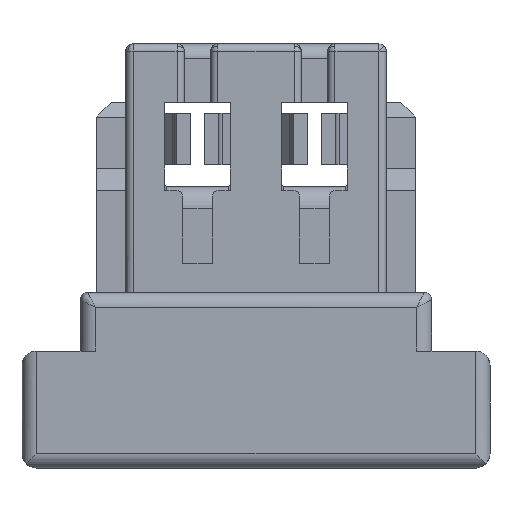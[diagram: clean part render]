
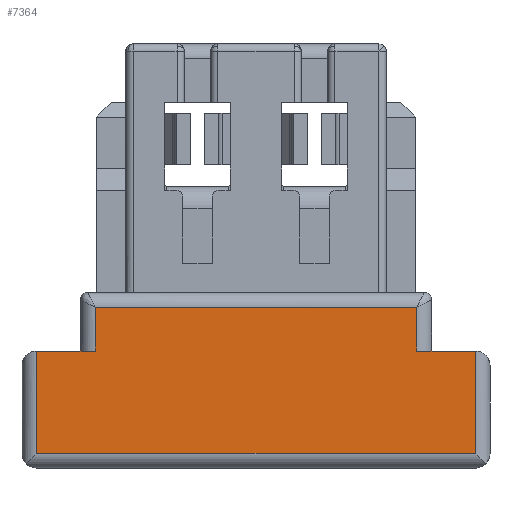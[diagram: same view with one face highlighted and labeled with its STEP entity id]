
A CAD part, front view. The second image highlights one B-rep face of the part: STEP entity #7364.
In plain terms, the highlighted planar face has unit normal (0, -1, 0).
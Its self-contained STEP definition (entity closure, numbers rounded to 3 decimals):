
#198=DIRECTION('',(-1.,0.,0.));
#199=VECTOR('',#198,3.);
#200=CARTESIAN_POINT('',(-13.7,0.,0.1));
#201=LINE('',#200,#199);
#235=DIRECTION('',(0.,0.,-1.));
#236=VECTOR('',#235,0.7);
#237=CARTESIAN_POINT('',(-13.7,0.,0.8));
#238=LINE('',#237,#236);
#387=DIRECTION('',(-1.,0.,0.));
#388=VECTOR('',#387,0.4);
#389=CARTESIAN_POINT('',(-13.7,0.,0.8));
#390=LINE('',#389,#388);
#391=DIRECTION('',(1.,0.,0.));
#392=VECTOR('',#391,2.2);
#393=CARTESIAN_POINT('',(-16.3,0.,1.1));
#394=LINE('',#393,#392);
#2503=DIRECTION('',(1.,0.,0.));
#2504=VECTOR('',#2503,0.4);
#2505=CARTESIAN_POINT('',(-16.7,0.,0.8));
#2506=LINE('',#2505,#2504);
#2511=CARTESIAN_POINT('',(-16.3,0.,1.1));
#2521=DIRECTION('',(0.,0.,1.));
#2522=VECTOR('',#2521,0.3);
#2523=CARTESIAN_POINT('',(-16.3,0.,0.8));
#2524=LINE('',#2523,#2522);
#2557=DIRECTION('',(0.,0.,1.));
#2558=VECTOR('',#2557,0.7);
#2559=CARTESIAN_POINT('',(-16.7,0.,0.1));
#2560=LINE('',#2559,#2558);
#3631=DIRECTION('',(0.,0.,-1.));
#3632=VECTOR('',#3631,0.3);
#3633=CARTESIAN_POINT('',(-14.1,0.,1.1));
#3634=LINE('',#3633,#3632);
#5798=VERTEX_POINT('',#2511);
#5799=CARTESIAN_POINT('',(-16.3,0.,0.8));
#5800=VERTEX_POINT('',#5799);
#6041=CARTESIAN_POINT('',(-16.7,0.,0.8));
#6042=VERTEX_POINT('',#6041);
#6043=CARTESIAN_POINT('',(-14.1,0.,1.1));
#6044=CARTESIAN_POINT('',(-14.1,0.,0.8));
#6045=VERTEX_POINT('',#6043);
#6046=VERTEX_POINT('',#6044);
#6047=CARTESIAN_POINT('',(-13.7,0.,0.8));
#6048=VERTEX_POINT('',#6047);
#6049=CARTESIAN_POINT('',(-13.7,0.,0.1));
#6050=VERTEX_POINT('',#6049);
#6051=CARTESIAN_POINT('',(-16.7,0.,0.1));
#6052=VERTEX_POINT('',#6051);
#7344=CARTESIAN_POINT('',(-6.8,0.,0.8));
#7345=DIRECTION('',(0.,1.,0.));
#7346=DIRECTION('',(0.,0.,-1.));
#7347=AXIS2_PLACEMENT_3D('',#7344,#7345,#7346);
#7348=PLANE('',#7347);
#7350=ORIENTED_EDGE('',*,*,#7349,.T.);
#7352=ORIENTED_EDGE('',*,*,#7351,.T.);
#7353=ORIENTED_EDGE('',*,*,#7333,.F.);
#7354=ORIENTED_EDGE('',*,*,#7169,.T.);
#7355=ORIENTED_EDGE('',*,*,#7133,.T.);
#7357=ORIENTED_EDGE('',*,*,#7356,.T.);
#7359=ORIENTED_EDGE('',*,*,#7358,.T.);
#7361=ORIENTED_EDGE('',*,*,#7360,.T.);
#7362=EDGE_LOOP('',(#7350,#7352,#7353,#7354,#7355,#7357,#7359,#7361));
#7363=FACE_OUTER_BOUND('',#7362,.F.);
#7364=ADVANCED_FACE('',(#7363),#7348,.F.);
#7133=EDGE_CURVE('',#6050,#6052,#201,.T.);
#7169=EDGE_CURVE('',#6048,#6050,#238,.T.);
#7333=EDGE_CURVE('',#6048,#6046,#390,.T.);
#7349=EDGE_CURVE('',#5798,#6045,#394,.T.);
#7351=EDGE_CURVE('',#6045,#6046,#3634,.T.);
#7356=EDGE_CURVE('',#6052,#6042,#2560,.T.);
#7358=EDGE_CURVE('',#6042,#5800,#2506,.T.);
#7360=EDGE_CURVE('',#5800,#5798,#2524,.T.);
